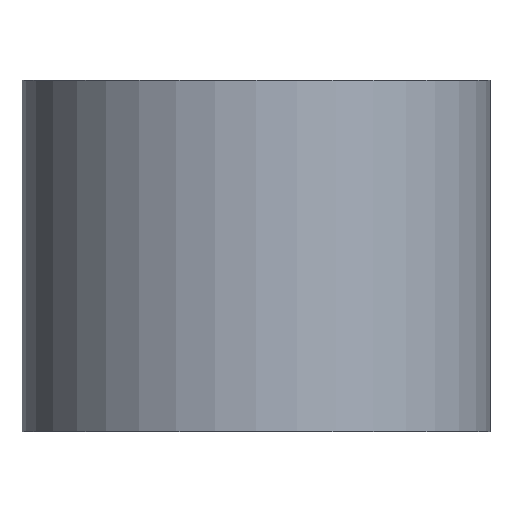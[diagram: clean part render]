
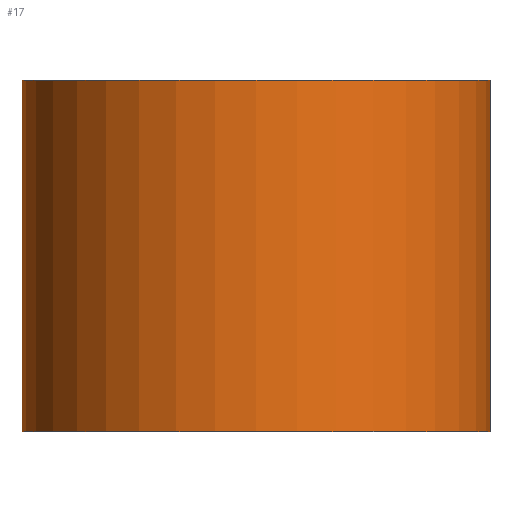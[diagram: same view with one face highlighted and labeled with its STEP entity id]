
A CAD part, front view. The second image highlights one B-rep face of the part: STEP entity #17.
In plain terms, the highlighted cylindrical face has radius 2.3 mm (diameter 4.6 mm), a full revolution.
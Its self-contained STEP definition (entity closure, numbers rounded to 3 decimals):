
#17 = ADVANCED_FACE('',(#18),#32,.T.);
#18 = FACE_BOUND('',#19,.F.);
#19 = EDGE_LOOP('',(#20,#50,#77,#78));
#20 = ORIENTED_EDGE('',*,*,#21,.T.);
#21 = EDGE_CURVE('',#22,#24,#26,.T.);
#22 = VERTEX_POINT('',#23);
#23 = CARTESIAN_POINT('',(2.3,0.,0.));
#24 = VERTEX_POINT('',#25);
#25 = CARTESIAN_POINT('',(2.3,0.,3.45));
#26 = SEAM_CURVE('',#27,(#31,#43),.PCURVE_S1.);
#27 = LINE('',#28,#29);
#28 = CARTESIAN_POINT('',(2.3,0.,0.));
#29 = VECTOR('',#30,1.);
#30 = DIRECTION('',(0.,0.,1.));
#31 = PCURVE('',#32,#37);
#32 = CYLINDRICAL_SURFACE('',#33,2.3);
#33 = AXIS2_PLACEMENT_3D('',#34,#35,#36);
#34 = CARTESIAN_POINT('',(0.,0.,0.));
#35 = DIRECTION('',(-0.,-0.,-1.));
#36 = DIRECTION('',(1.,0.,0.));
#37 = DEFINITIONAL_REPRESENTATION('',(#38),#42);
#38 = LINE('',#39,#40);
#39 = CARTESIAN_POINT('',(-0.,0.));
#40 = VECTOR('',#41,1.);
#41 = DIRECTION('',(-0.,-1.));
#42 = ( GEOMETRIC_REPRESENTATION_CONTEXT(2) 
PARAMETRIC_REPRESENTATION_CONTEXT() REPRESENTATION_CONTEXT('2D SPACE',''
  ) );
#43 = PCURVE('',#32,#44);
#44 = DEFINITIONAL_REPRESENTATION('',(#45),#49);
#45 = LINE('',#46,#47);
#46 = CARTESIAN_POINT('',(-6.283,0.));
#47 = VECTOR('',#48,1.);
#48 = DIRECTION('',(-0.,-1.));
#49 = ( GEOMETRIC_REPRESENTATION_CONTEXT(2) 
PARAMETRIC_REPRESENTATION_CONTEXT() REPRESENTATION_CONTEXT('2D SPACE',''
  ) );
#50 = ORIENTED_EDGE('',*,*,#51,.T.);
#51 = EDGE_CURVE('',#24,#24,#52,.T.);
#52 = SURFACE_CURVE('',#53,(#58,#65),.PCURVE_S1.);
#53 = CIRCLE('',#54,2.3);
#54 = AXIS2_PLACEMENT_3D('',#55,#56,#57);
#55 = CARTESIAN_POINT('',(0.,0.,3.45));
#56 = DIRECTION('',(0.,0.,1.));
#57 = DIRECTION('',(1.,0.,0.));
#58 = PCURVE('',#32,#59);
#59 = DEFINITIONAL_REPRESENTATION('',(#60),#64);
#60 = LINE('',#61,#62);
#61 = CARTESIAN_POINT('',(-0.,-3.45));
#62 = VECTOR('',#63,1.);
#63 = DIRECTION('',(-1.,0.));
#64 = ( GEOMETRIC_REPRESENTATION_CONTEXT(2) 
PARAMETRIC_REPRESENTATION_CONTEXT() REPRESENTATION_CONTEXT('2D SPACE',''
  ) );
#65 = PCURVE('',#66,#71);
#66 = PLANE('',#67);
#67 = AXIS2_PLACEMENT_3D('',#68,#69,#70);
#68 = CARTESIAN_POINT('',(0.,0.,3.45));
#69 = DIRECTION('',(0.,0.,1.));
#70 = DIRECTION('',(1.,0.,-0.));
#71 = DEFINITIONAL_REPRESENTATION('',(#72),#76);
#72 = CIRCLE('',#73,2.3);
#73 = AXIS2_PLACEMENT_2D('',#74,#75);
#74 = CARTESIAN_POINT('',(0.,0.));
#75 = DIRECTION('',(1.,0.));
#76 = ( GEOMETRIC_REPRESENTATION_CONTEXT(2) 
PARAMETRIC_REPRESENTATION_CONTEXT() REPRESENTATION_CONTEXT('2D SPACE',''
  ) );
#77 = ORIENTED_EDGE('',*,*,#21,.F.);
#78 = ORIENTED_EDGE('',*,*,#79,.F.);
#79 = EDGE_CURVE('',#22,#22,#80,.T.);
#80 = SURFACE_CURVE('',#81,(#86,#93),.PCURVE_S1.);
#81 = CIRCLE('',#82,2.3);
#82 = AXIS2_PLACEMENT_3D('',#83,#84,#85);
#83 = CARTESIAN_POINT('',(0.,0.,0.));
#84 = DIRECTION('',(0.,0.,1.));
#85 = DIRECTION('',(1.,0.,0.));
#86 = PCURVE('',#32,#87);
#87 = DEFINITIONAL_REPRESENTATION('',(#88),#92);
#88 = LINE('',#89,#90);
#89 = CARTESIAN_POINT('',(-0.,0.));
#90 = VECTOR('',#91,1.);
#91 = DIRECTION('',(-1.,0.));
#92 = ( GEOMETRIC_REPRESENTATION_CONTEXT(2) 
PARAMETRIC_REPRESENTATION_CONTEXT() REPRESENTATION_CONTEXT('2D SPACE',''
  ) );
#93 = PCURVE('',#94,#99);
#94 = PLANE('',#95);
#95 = AXIS2_PLACEMENT_3D('',#96,#97,#98);
#96 = CARTESIAN_POINT('',(0.,0.,0.));
#97 = DIRECTION('',(0.,0.,1.));
#98 = DIRECTION('',(1.,0.,-0.));
#99 = DEFINITIONAL_REPRESENTATION('',(#100),#104);
#100 = CIRCLE('',#101,2.3);
#101 = AXIS2_PLACEMENT_2D('',#102,#103);
#102 = CARTESIAN_POINT('',(0.,0.));
#103 = DIRECTION('',(1.,0.));
#104 = ( GEOMETRIC_REPRESENTATION_CONTEXT(2) 
PARAMETRIC_REPRESENTATION_CONTEXT() REPRESENTATION_CONTEXT('2D SPACE',''
  ) );
